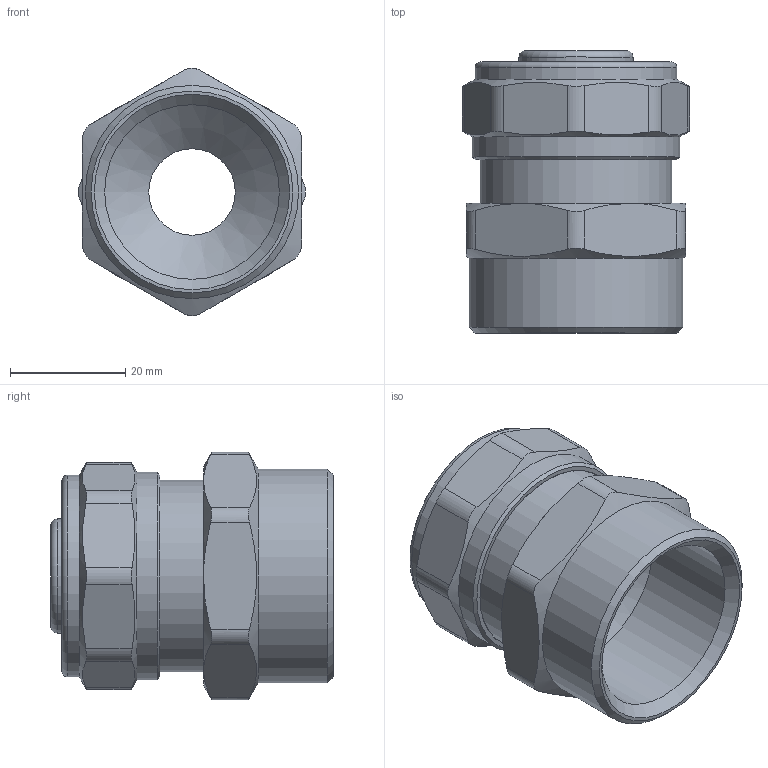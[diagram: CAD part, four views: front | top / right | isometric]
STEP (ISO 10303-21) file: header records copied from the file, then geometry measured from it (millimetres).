
FILE_DESCRIPTION(('STEP AP203'), '1');
FILE_NAME('VTm.302.N.002606', '', ('UNSPECIFIED'), ('UNSPECIFIED'), 'C3D Converter', 'C3D Toolkit', '');
FILE_SCHEMA(('CONFIG_CONTROL_DESIGN'));
Length unit declared in the file: millimetre
Products named in the file (1): ВР.302634.064.000 СБ
Bounding box: 39.39 x 49 x 42.94 mm (x, y, z)
Volume: 24558.8 mm3; surface area: 16550.3 mm2
Topology: 1 solids, 1 shells, 320 faces, 861 edges, 565 vertices
Faces by surface type: extrusion 123, plane 103, cylinder 43, torus 29, cone 22
Full cylindrical faces by diameter (mm): 15 x1, 17.4 x4, 19.8 x5, 20 x1, 26.2 x1, 26.7 x1, 30.292 x2, 33.249 x1, 35 x1, 36 x1, 37 x1
Entity records: 12498 total; most frequent: CARTESIAN_POINT 5276, ORIENTED_EDGE 1630, DIRECTION 1067, EDGE_CURVE 815, VERTEX_POINT 565, B_SPLINE_CURVE_WITH_KNOTS 476, VECTOR 459, EDGE_LOOP 390
